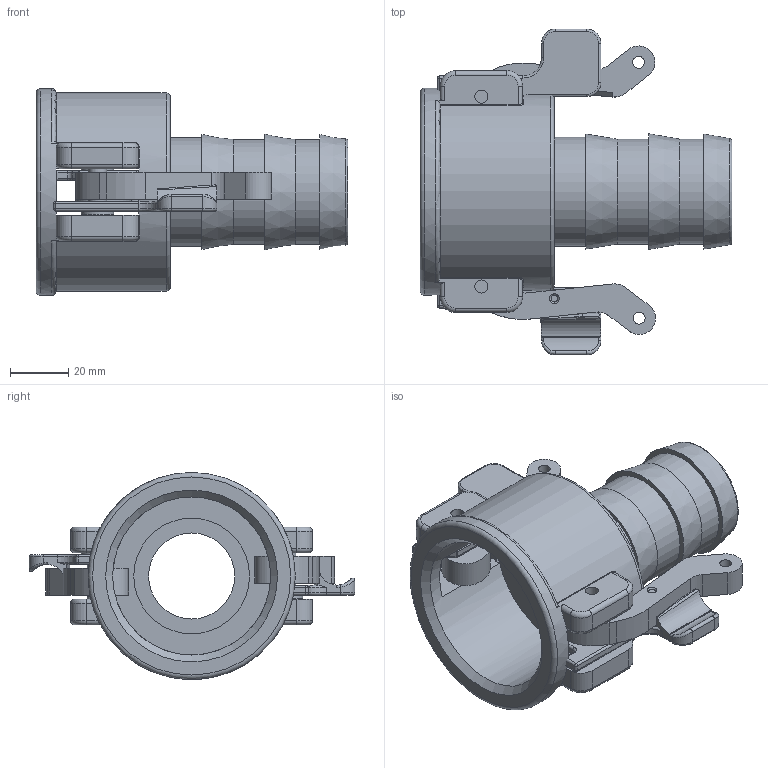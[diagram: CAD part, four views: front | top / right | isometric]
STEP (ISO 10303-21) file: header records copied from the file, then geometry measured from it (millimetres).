
FILE_DESCRIPTION(/* description */ ('Alibre Inc.'),/* implementation_level */ '2;1');
FILE_NAME(/* name */ 'export0',/* time_stamp */ '2015-12-30T14:36:44-05:00',/* author */ (''),/* organization */ (''),/* preprocessor_version */ 'ST-DEVELOPER v14',/* originating_system */ 'Alibre',/* authorisation */ '');
FILE_SCHEMA (('CONFIG_CONTROL_DESIGN'));
Length unit declared in the file: centimetre
Products named in the file (6): ID_1; ID_2; ID_3; ID_4
Bounding box: 106.68 x 111.51 x 70.87 mm (x, y, z)
Volume: 122876.7 mm3; surface area: 56199.6 mm2
Topology: 8 solids, 8 shells, 337 faces, 812 edges, 484 vertices
Faces by surface type: cylinder 141, plane 109, torus 48, sphere 16, bspline 15, cone 8
Full cylindrical faces by diameter (mm): 4.064 x2, 4.47 x4, 6.35 x4, 6.604 x4, 11.125 x2, 29.464 x1, 35.916 x2, 37.338 x1, 39.624 x1, 54.102 x1, 55.626 x1, 57.912 x1, 67.818 x1, 70.866 x1
Entity records: 9032 total; most frequent: CARTESIAN_POINT 3365, ORIENTED_EDGE 1016, DIRECTION 1000, EDGE_CURVE 508, AXIS2_PLACEMENT_3D 447, VERTEX_POINT 324, EDGE_LOOP 282, FACE_BOUND 282
